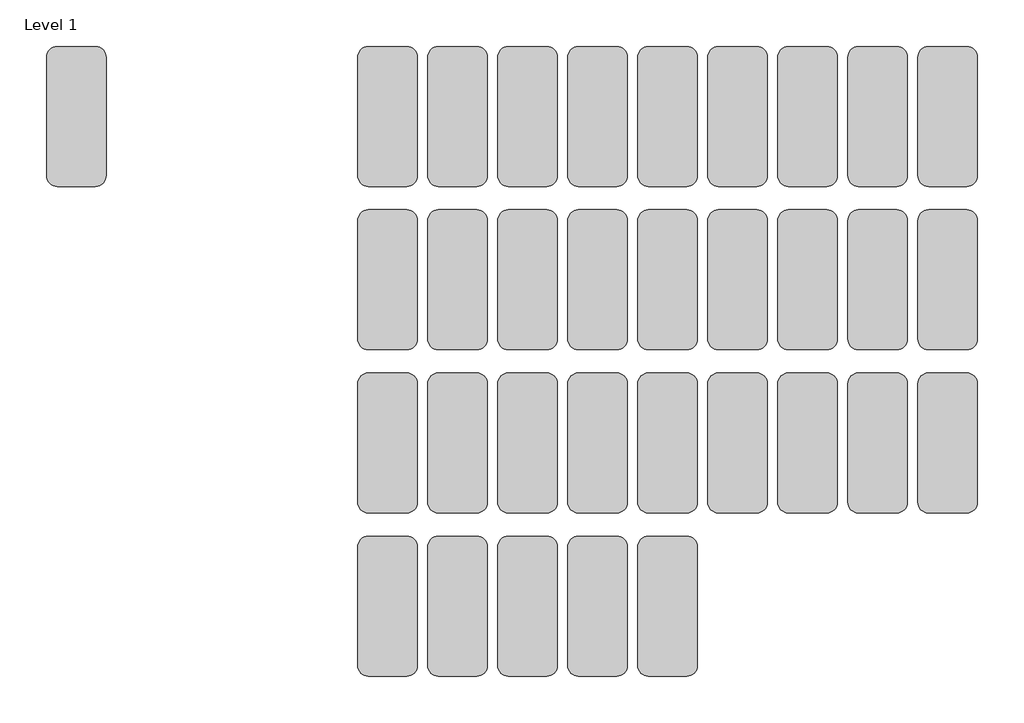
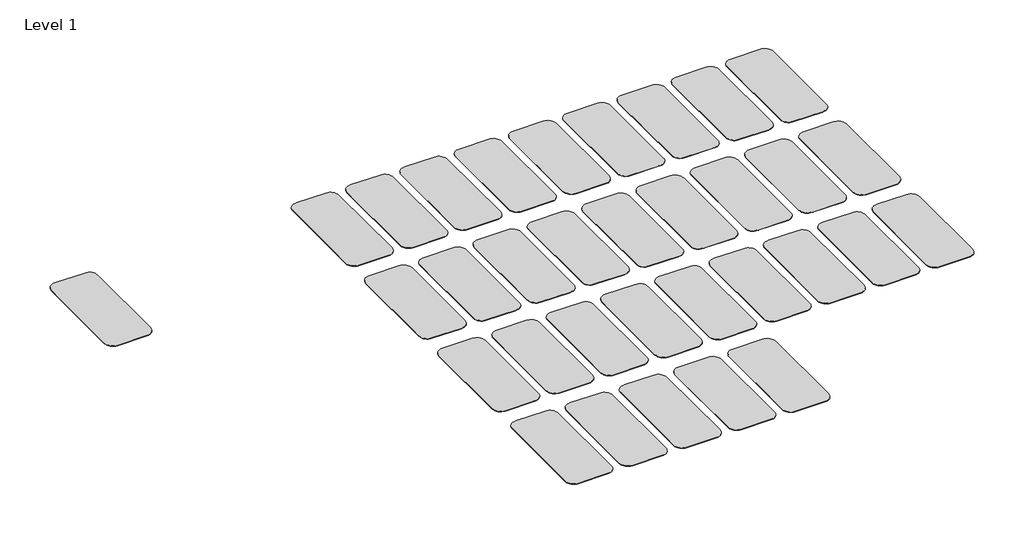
# One storey: 33 proxies.
"""IFC4 building model written with IfcOpenShell, lengths in millimetres."""

from ifc_helpers import new_model, si_unit, origin, place, context, project, spatial, transform, mapped, element, save
from components import proxy_101_frost_12_mm_981fdf22

model = new_model("IFC4")

# Units and contexts
model_context = context("Model", 3, world=origin())
ifc_project = project(units=[si_unit("LENGTHUNIT", "METRE", prefix="MILLI")], contexts=[model_context])

# Site, building, storey
site = spatial("IfcSite", under=ifc_project)
building = spatial("IfcBuilding", under=site)
storey = spatial("IfcBuildingStorey", under=building, Name="Level 1", Elevation=0.0)

# Proxies
placement = place(None, origin())
proxy_101_frost_12_mm_shape = proxy_101_frost_12_mm_981fdf22(model_context)
element("IfcBuildingElementProxy", 1, Name="Wall-Panel-Kirei_USA-EchoScreen-Fizz_Screen : 108 Sunshine - 12 mm", ObjectType="Wall-Panel-Kirei_USA-EchoScreen-Fizz_Screen : 108 Sunshine - 12 mm", at=placement, inside=storey, context=model_context, shape_type="MappedRepresentation", body=[
    mapped(proxy_101_frost_12_mm_shape, transform((1981.2, -21640.8, 0.0), x_axis=(1.0, 0.0, 0.0), y_axis=(0.0, 1.0, 0.0), z_axis=(0.0, 0.0, 1.0))),
])
element("IfcBuildingElementProxy", 2, Name="Wall-Panel-Kirei_USA-EchoScreen-Fizz_Screen : 167 Cinnamon - 12 mm", ObjectType="Wall-Panel-Kirei_USA-EchoScreen-Fizz_Screen : 167 Cinnamon - 12 mm", at=placement, inside=storey, context=model_context, shape_type="MappedRepresentation", body=[
    mapped(proxy_101_frost_12_mm_shape, transform((4724.4, -21640.8, 0.0), x_axis=(1.0, 0.0, 0.0), y_axis=(0.0, 1.0, 0.0), z_axis=(0.0, 0.0, 1.0))),
])
element("IfcBuildingElementProxy", 3, Name="Wall-Panel-Kirei_USA-EchoScreen-Fizz_Screen : 274 Orchid - 12 mm", ObjectType="Wall-Panel-Kirei_USA-EchoScreen-Fizz_Screen : 274 Orchid - 12 mm", at=placement, inside=storey, context=model_context, shape_type="MappedRepresentation", body=[
    mapped(proxy_101_frost_12_mm_shape, transform((8839.2, -21640.8, 0.0), x_axis=(1.0, 0.0, 0.0), y_axis=(0.0, 1.0, 0.0), z_axis=(0.0, 0.0, 1.0))),
])
element("IfcBuildingElementProxy", 4, Name="Wall-Panel-Kirei_USA-EchoScreen-Fizz_Screen : 295 Mandarin - 12 mm", ObjectType="Wall-Panel-Kirei_USA-EchoScreen-Fizz_Screen : 295 Mandarin - 12 mm", at=placement, inside=storey, context=model_context, shape_type="MappedRepresentation", body=[
    mapped(proxy_101_frost_12_mm_shape, transform((11582.4, -21640.8, 0.0), x_axis=(1.0, 0.0, 0.0), y_axis=(0.0, 1.0, 0.0), z_axis=(0.0, 0.0, 1.0))),
])
element("IfcBuildingElementProxy", 5, Name="Wall-Panel-Kirei_USA-EchoScreen-Fizz_Screen : 330 Ivy - 12 mm", ObjectType="Wall-Panel-Kirei_USA-EchoScreen-Fizz_Screen : 330 Ivy - 12 mm", at=placement, inside=storey, context=model_context, shape_type="MappedRepresentation", body=[
    mapped(proxy_101_frost_12_mm_shape, transform((609.6, -24841.2, 0.0), x_axis=(1.0, 0.0, 0.0), y_axis=(0.0, 1.0, 0.0), z_axis=(0.0, 0.0, 1.0))),
])
element("IfcBuildingElementProxy", 6, Name="Wall-Panel-Kirei_USA-EchoScreen-Fizz_Screen : 338 Jade - 12 mm", ObjectType="Wall-Panel-Kirei_USA-EchoScreen-Fizz_Screen : 338 Jade - 12 mm", at=placement, inside=storey, context=model_context, shape_type="MappedRepresentation", body=[
    mapped(proxy_101_frost_12_mm_shape, transform((1981.2, -24841.2, 0.0), x_axis=(1.0, 0.0, 0.0), y_axis=(0.0, 1.0, 0.0), z_axis=(0.0, 0.0, 1.0))),
])
element("IfcBuildingElementProxy", 7, Name="Wall-Panel-Kirei_USA-EchoScreen-Fizz_Screen : 349 Vineyard - 12 mm", ObjectType="Wall-Panel-Kirei_USA-EchoScreen-Fizz_Screen : 349 Vineyard - 12 mm", at=placement, inside=storey, context=model_context, shape_type="MappedRepresentation", body=[
    mapped(proxy_101_frost_12_mm_shape, transform((3352.8, -24841.2, 0.0), x_axis=(1.0, 0.0, 0.0), y_axis=(0.0, 1.0, 0.0), z_axis=(0.0, 0.0, 1.0))),
])
element("IfcBuildingElementProxy", 8, Name="Wall-Panel-Kirei_USA-EchoScreen-Fizz_Screen : 551 Duck Egg - 12 mm", ObjectType="Wall-Panel-Kirei_USA-EchoScreen-Fizz_Screen : 551 Duck Egg - 12 mm", at=placement, inside=storey, context=model_context, shape_type="MappedRepresentation", body=[
    mapped(proxy_101_frost_12_mm_shape, transform((10210.8, -28041.6, 0.0), x_axis=(1.0, 0.0, 0.0), y_axis=(0.0, 1.0, 0.0), z_axis=(0.0, 0.0, 1.0))),
])
element("IfcBuildingElementProxy", 9, Name="Wall-Panel-Kirei_USA-EchoScreen-Fizz_Screen : 579 Pistachio - 12 mm", ObjectType="Wall-Panel-Kirei_USA-EchoScreen-Fizz_Screen : 579 Pistachio - 12 mm", at=placement, inside=storey, context=model_context, shape_type="MappedRepresentation", body=[
    mapped(proxy_101_frost_12_mm_shape, transform((609.6, -31242.0, 0.0), x_axis=(1.0, 0.0, 0.0), y_axis=(0.0, 1.0, 0.0), z_axis=(0.0, 0.0, 1.0))),
])
element("IfcBuildingElementProxy", 10, Name="Wall-Panel-Kirei_USA-EchoScreen-Fizz_Screen : 633 Pacific - 12 mm", ObjectType="Wall-Panel-Kirei_USA-EchoScreen-Fizz_Screen : 633 Pacific - 12 mm", at=placement, inside=storey, context=model_context, shape_type="MappedRepresentation", body=[
    mapped(proxy_101_frost_12_mm_shape, transform((3352.8, -31242.0, 0.0), x_axis=(1.0, 0.0, 0.0), y_axis=(0.0, 1.0, 0.0), z_axis=(0.0, 0.0, 1.0))),
])
element("IfcBuildingElementProxy", 11, Name="Wall-Panel-Kirei_USA-EchoScreen-Fizz_Screen : 660 Coronet - 12 mm", ObjectType="Wall-Panel-Kirei_USA-EchoScreen-Fizz_Screen : 660 Coronet - 12 mm", at=placement, inside=storey, context=model_context, shape_type="MappedRepresentation", body=[
    mapped(proxy_101_frost_12_mm_shape, transform((4724.4, -31242.0, 0.0), x_axis=(1.0, 0.0, 0.0), y_axis=(0.0, 1.0, 0.0), z_axis=(0.0, 0.0, 1.0))),
])
element("IfcBuildingElementProxy", 12, Name="Wall-Panel-Kirei_USA-EchoScreen-Fizz_Screen : 101 Frost - 12 mm", ObjectType="Wall-Panel-Kirei_USA-EchoScreen-Fizz_Screen : 101 Frost - 12 mm", at=placement, inside=storey, context=model_context, shape_type="MappedRepresentation", body=[
    mapped(proxy_101_frost_12_mm_shape, transform((609.6, -21640.8, 0.0), x_axis=(1.0, 0.0, 0.0), y_axis=(0.0, 1.0, 0.0), z_axis=(0.0, 0.0, 1.0))),
])
element("IfcBuildingElementProxy", 13, Name="Wall-Panel-Kirei_USA-EchoScreen-Fizz_Screen : 101 Frost - 12 mm", ObjectType="Wall-Panel-Kirei_USA-EchoScreen-Fizz_Screen : 101 Frost - 12 mm", at=placement, inside=storey, context=model_context, shape_type="MappedRepresentation", body=[
    mapped(proxy_101_frost_12_mm_shape, transform((-5486.4, -21640.8, 0.0), x_axis=(1.0, 0.0, 0.0), y_axis=(0.0, 1.0, 0.0), z_axis=(0.0, 0.0, 1.0))),
])
element("IfcBuildingElementProxy", 14, Name="Wall-Panel-Kirei_USA-EchoScreen-Fizz_Screen : 124 Ochre - 12 mm", ObjectType="Wall-Panel-Kirei_USA-EchoScreen-Fizz_Screen : 124 Ochre - 12 mm", at=placement, inside=storey, context=model_context, shape_type="MappedRepresentation", body=[
    mapped(proxy_101_frost_12_mm_shape, transform((3352.8, -21640.8, 0.0), x_axis=(1.0, 0.0, 0.0), y_axis=(0.0, 1.0, 0.0), z_axis=(0.0, 0.0, 1.0))),
])
element("IfcBuildingElementProxy", 15, Name="Wall-Panel-Kirei_USA-EchoScreen-Fizz_Screen : 193 Rouge - 12 mm", ObjectType="Wall-Panel-Kirei_USA-EchoScreen-Fizz_Screen : 193 Rouge - 12 mm", at=placement, inside=storey, context=model_context, shape_type="MappedRepresentation", body=[
    mapped(proxy_101_frost_12_mm_shape, transform((6096.0, -21640.8, 0.0), x_axis=(1.0, 0.0, 0.0), y_axis=(0.0, 1.0, 0.0), z_axis=(0.0, 0.0, 1.0))),
])
element("IfcBuildingElementProxy", 16, Name="Wall-Panel-Kirei_USA-EchoScreen-Fizz_Screen : 269 Wine - 12 mm", ObjectType="Wall-Panel-Kirei_USA-EchoScreen-Fizz_Screen : 269 Wine - 12 mm", at=placement, inside=storey, context=model_context, shape_type="MappedRepresentation", body=[
    mapped(proxy_101_frost_12_mm_shape, transform((7467.6, -21640.8, 0.0), x_axis=(1.0, 0.0, 0.0), y_axis=(0.0, 1.0, 0.0), z_axis=(0.0, 0.0, 1.0))),
])
element("IfcBuildingElementProxy", 17, Name="Wall-Panel-Kirei_USA-EchoScreen-Fizz_Screen : 276 Lavender - 12 mm", ObjectType="Wall-Panel-Kirei_USA-EchoScreen-Fizz_Screen : 276 Lavender - 12 mm", at=placement, inside=storey, context=model_context, shape_type="MappedRepresentation", body=[
    mapped(proxy_101_frost_12_mm_shape, transform((10210.8, -21640.8, 0.0), x_axis=(1.0, 0.0, 0.0), y_axis=(0.0, 1.0, 0.0), z_axis=(0.0, 0.0, 1.0))),
])
element("IfcBuildingElementProxy", 18, Name="Wall-Panel-Kirei_USA-EchoScreen-Fizz_Screen : 365 Navy - 12 mm", ObjectType="Wall-Panel-Kirei_USA-EchoScreen-Fizz_Screen : 365 Navy - 12 mm", at=placement, inside=storey, context=model_context, shape_type="MappedRepresentation", body=[
    mapped(proxy_101_frost_12_mm_shape, transform((4724.4, -24841.2, 0.0), x_axis=(1.0, 0.0, 0.0), y_axis=(0.0, 1.0, 0.0), z_axis=(0.0, 0.0, 1.0))),
])
element("IfcBuildingElementProxy", 19, Name="Wall-Panel-Kirei_USA-EchoScreen-Fizz_Screen : 381 Lime Splice - 12 mm", ObjectType="Wall-Panel-Kirei_USA-EchoScreen-Fizz_Screen : 381 Lime Splice - 12 mm", at=placement, inside=storey, context=model_context, shape_type="MappedRepresentation", body=[
    mapped(proxy_101_frost_12_mm_shape, transform((6096.0, -24841.2, 0.0), x_axis=(1.0, 0.0, 0.0), y_axis=(0.0, 1.0, 0.0), z_axis=(0.0, 0.0, 1.0))),
])
element("IfcBuildingElementProxy", 20, Name="Wall-Panel-Kirei_USA-EchoScreen-Fizz_Screen : 384 Olive - 12 mm", ObjectType="Wall-Panel-Kirei_USA-EchoScreen-Fizz_Screen : 384 Olive - 12 mm", at=placement, inside=storey, context=model_context, shape_type="MappedRepresentation", body=[
    mapped(proxy_101_frost_12_mm_shape, transform((7467.6, -24841.2, 0.0), x_axis=(1.0, 0.0, 0.0), y_axis=(0.0, 1.0, 0.0), z_axis=(0.0, 0.0, 1.0))),
])
element("IfcBuildingElementProxy", 21, Name="Wall-Panel-Kirei_USA-EchoScreen-Fizz_Screen : 402 Pebble - 12 mm", ObjectType="Wall-Panel-Kirei_USA-EchoScreen-Fizz_Screen : 402 Pebble - 12 mm", at=placement, inside=storey, context=model_context, shape_type="MappedRepresentation", body=[
    mapped(proxy_101_frost_12_mm_shape, transform((8839.2, -24841.2, 0.0), x_axis=(1.0, 0.0, 0.0), y_axis=(0.0, 1.0, 0.0), z_axis=(0.0, 0.0, 1.0))),
])
element("IfcBuildingElementProxy", 22, Name="Wall-Panel-Kirei_USA-EchoScreen-Fizz_Screen : 442 Gray - 12 mm", ObjectType="Wall-Panel-Kirei_USA-EchoScreen-Fizz_Screen : 442 Gray - 12 mm", at=placement, inside=storey, context=model_context, shape_type="MappedRepresentation", body=[
    mapped(proxy_101_frost_12_mm_shape, transform((10210.8, -24841.2, 0.0), x_axis=(1.0, 0.0, 0.0), y_axis=(0.0, 1.0, 0.0), z_axis=(0.0, 0.0, 1.0))),
])
element("IfcBuildingElementProxy", 23, Name="Wall-Panel-Kirei_USA-EchoScreen-Fizz_Screen : 444 Smoke - 12 mm", ObjectType="Wall-Panel-Kirei_USA-EchoScreen-Fizz_Screen : 444 Smoke - 12 mm", at=placement, inside=storey, context=model_context, shape_type="MappedRepresentation", body=[
    mapped(proxy_101_frost_12_mm_shape, transform((11582.4, -24841.2, 0.0), x_axis=(1.0, 0.0, 0.0), y_axis=(0.0, 1.0, 0.0), z_axis=(0.0, 0.0, 1.0))),
])
element("IfcBuildingElementProxy", 24, Name="Wall-Panel-Kirei_USA-EchoScreen-Fizz_Screen : 447 Slate - 12 mm", ObjectType="Wall-Panel-Kirei_USA-EchoScreen-Fizz_Screen : 447 Slate - 12 mm", at=placement, inside=storey, context=model_context, shape_type="MappedRepresentation", body=[
    mapped(proxy_101_frost_12_mm_shape, transform((609.6, -28041.6, 0.0), x_axis=(1.0, 0.0, 0.0), y_axis=(0.0, 1.0, 0.0), z_axis=(0.0, 0.0, 1.0))),
])
element("IfcBuildingElementProxy", 25, Name="Wall-Panel-Kirei_USA-EchoScreen-Fizz_Screen : 454 Mushroom - 12 mm", ObjectType="Wall-Panel-Kirei_USA-EchoScreen-Fizz_Screen : 454 Mushroom - 12 mm", at=placement, inside=storey, context=model_context, shape_type="MappedRepresentation", body=[
    mapped(proxy_101_frost_12_mm_shape, transform((1981.2, -28041.6, 0.0), x_axis=(1.0, 0.0, 0.0), y_axis=(0.0, 1.0, 0.0), z_axis=(0.0, 0.0, 1.0))),
])
element("IfcBuildingElementProxy", 26, Name="Wall-Panel-Kirei_USA-EchoScreen-Fizz_Screen : 468 Vanilla - 12 mm", ObjectType="Wall-Panel-Kirei_USA-EchoScreen-Fizz_Screen : 468 Vanilla - 12 mm", at=placement, inside=storey, context=model_context, shape_type="MappedRepresentation", body=[
    mapped(proxy_101_frost_12_mm_shape, transform((3352.8, -28041.6, 0.0), x_axis=(1.0, 0.0, 0.0), y_axis=(0.0, 1.0, 0.0), z_axis=(0.0, 0.0, 1.0))),
])
element("IfcBuildingElementProxy", 27, Name="Wall-Panel-Kirei_USA-EchoScreen-Fizz_Screen : 487 Blush - 12 mm", ObjectType="Wall-Panel-Kirei_USA-EchoScreen-Fizz_Screen : 487 Blush - 12 mm", at=placement, inside=storey, context=model_context, shape_type="MappedRepresentation", body=[
    mapped(proxy_101_frost_12_mm_shape, transform((4724.4, -28041.6, 0.0), x_axis=(1.0, 0.0, 0.0), y_axis=(0.0, 1.0, 0.0), z_axis=(0.0, 0.0, 1.0))),
])
element("IfcBuildingElementProxy", 28, Name="Wall-Panel-Kirei_USA-EchoScreen-Fizz_Screen : 500 White - 12 mm", ObjectType="Wall-Panel-Kirei_USA-EchoScreen-Fizz_Screen : 500 White - 12 mm", at=placement, inside=storey, context=model_context, shape_type="MappedRepresentation", body=[
    mapped(proxy_101_frost_12_mm_shape, transform((6096.0, -28041.6, 0.0), x_axis=(1.0, 0.0, 0.0), y_axis=(0.0, 1.0, 0.0), z_axis=(0.0, 0.0, 1.0))),
])
element("IfcBuildingElementProxy", 29, Name="Wall-Panel-Kirei_USA-EchoScreen-Fizz_Screen : 542 Black - 12 mm", ObjectType="Wall-Panel-Kirei_USA-EchoScreen-Fizz_Screen : 542 Black - 12 mm", at=placement, inside=storey, context=model_context, shape_type="MappedRepresentation", body=[
    mapped(proxy_101_frost_12_mm_shape, transform((7467.6, -28041.6, 0.0), x_axis=(1.0, 0.0, 0.0), y_axis=(0.0, 1.0, 0.0), z_axis=(0.0, 0.0, 1.0))),
])
element("IfcBuildingElementProxy", 30, Name="Wall-Panel-Kirei_USA-EchoScreen-Fizz_Screen : 550 Onyx - 12 mm", ObjectType="Wall-Panel-Kirei_USA-EchoScreen-Fizz_Screen : 550 Onyx - 12 mm", at=placement, inside=storey, context=model_context, shape_type="MappedRepresentation", body=[
    mapped(proxy_101_frost_12_mm_shape, transform((8839.2, -28041.6, 0.0), x_axis=(1.0, 0.0, 0.0), y_axis=(0.0, 1.0, 0.0), z_axis=(0.0, 0.0, 1.0))),
])
element("IfcBuildingElementProxy", 31, Name="Wall-Panel-Kirei_USA-EchoScreen-Fizz_Screen : 576 Magenta - 12 mm", ObjectType="Wall-Panel-Kirei_USA-EchoScreen-Fizz_Screen : 576 Magenta - 12 mm", at=placement, inside=storey, context=model_context, shape_type="MappedRepresentation", body=[
    mapped(proxy_101_frost_12_mm_shape, transform((11582.4, -28041.6, 0.0), x_axis=(1.0, 0.0, 0.0), y_axis=(0.0, 1.0, 0.0), z_axis=(0.0, 0.0, 1.0))),
])
element("IfcBuildingElementProxy", 32, Name="Wall-Panel-Kirei_USA-EchoScreen-Fizz_Screen : 580 Sage - 12 mm", ObjectType="Wall-Panel-Kirei_USA-EchoScreen-Fizz_Screen : 580 Sage - 12 mm", at=placement, inside=storey, context=model_context, shape_type="MappedRepresentation", body=[
    mapped(proxy_101_frost_12_mm_shape, transform((1981.2, -31242.0, 0.0), x_axis=(1.0, 0.0, 0.0), y_axis=(0.0, 1.0, 0.0), z_axis=(0.0, 0.0, 1.0))),
])
element("IfcBuildingElementProxy", 33, Name="Wall-Panel-Kirei_USA-EchoScreen-Fizz_Screen : 908 Cream - 12 mm", ObjectType="Wall-Panel-Kirei_USA-EchoScreen-Fizz_Screen : 908 Cream - 12 mm", at=placement, inside=storey, context=model_context, shape_type="MappedRepresentation", body=[
    mapped(proxy_101_frost_12_mm_shape, transform((6096.0, -31242.0, 0.0), x_axis=(1.0, 0.0, 0.0), y_axis=(0.0, 1.0, 0.0), z_axis=(0.0, 0.0, 1.0))),
])

save(model, "model.ifc")
